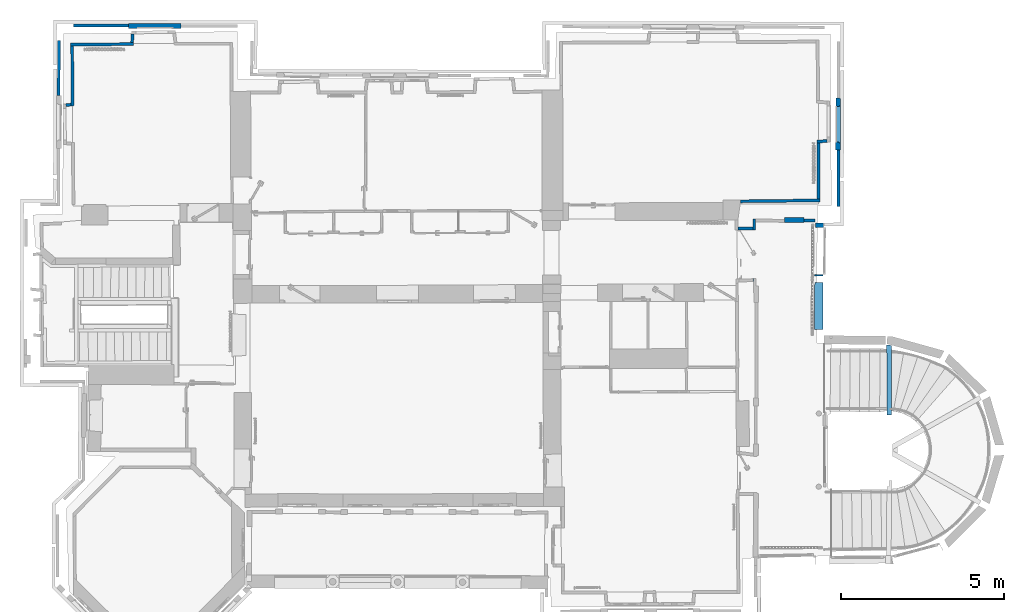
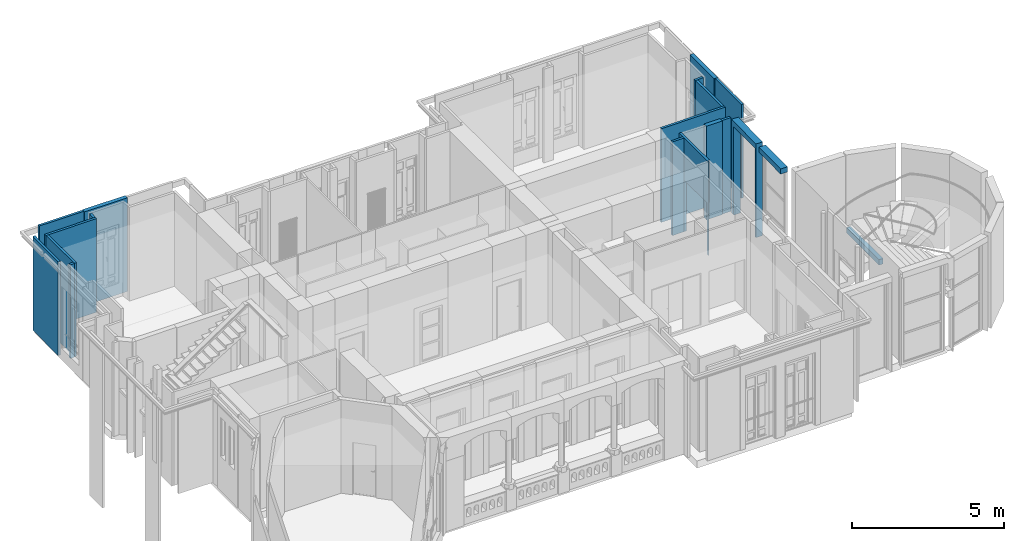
# One storey, part 14 of 66: 19 walls, 5 openings.
"""IFC2X3 building model written with IfcOpenShell, lengths in centimetres."""

import ifcopenshell
import ifcopenshell.guid

model = None  # the IFC model being written
_history = None  # IfcOwnerHistory: only IFC2X3 demands one
_inside = {}  # id of a spatial element -> (the spatial element, [elements in it])
_under = {}  # id of a project, library or spatial element -> (it, [spatial elements below it])
_declared = {}  # id of a project -> (the project, [libraries it declares])
_typed = {}  # id of a type object -> (the type object, [elements of that type])
_made_of = {}  # id of a material, layer set ... -> (it, [elements and type objects made of it])


def new_model(schema):
    """Start an empty IFC model of exactly this schema.

    Asked for "IFC4X3", IfcOpenShell would pick the latest addendum, in which some entities
    have other attributes; the version numbers below select the first issue.
    IFC2X3 requires an IfcOwnerHistory on every rooted entity: one is made here for all.
    """
    global model, _history
    if schema == "IFC4X3":
        model = ifcopenshell.file(schema_version=(4, 3, 0, 0))
    else:
        model = ifcopenshell.file(schema=schema)
    _inside.clear()
    _under.clear()
    _declared.clear()
    _typed.clear()
    _made_of.clear()
    _history = None
    if model.schema == "IFC2X3":
        org = make("IfcOrganization", Name="unknown")
        user = make(
            "IfcPersonAndOrganization",
            ThePerson=make("IfcPerson", FamilyName="unknown"),
            TheOrganization=org,
        )
        app = make(
            "IfcApplication",
            ApplicationDeveloper=org,
            Version="unknown",
            ApplicationFullName="unknown",
            ApplicationIdentifier="unknown",
        )
        _history = make(
            "IfcOwnerHistory",
            OwningUser=user,
            OwningApplication=app,
            ChangeAction="ADDED",
            CreationDate=0,
        )
    return model


def make(cls, **values):
    """One entity of the class cls with the attributes given. An attribute that is None is left unset."""
    return model.create_entity(
        cls, **{name: value for name, value in values.items() if value is not None}
    )


def entity(cls, *values):
    """Any entity or typed value of the class cls, its attributes in the order of the schema. None: left unset."""
    e = model.create_entity(cls)
    for i, value in enumerate(values):
        if value is not None:
            e[i] = value
    return e


def rooted(cls, **values):
    """An entity with a GlobalId (a new one), such as an element, a storey or a relation."""
    return make(cls, GlobalId=ifcopenshell.guid.new(), OwnerHistory=_history, **values)


def si_unit(unit_type, name, prefix=None):
    """IfcSIUnit, for example si_unit("LENGTHUNIT", "METRE", prefix="MILLI")."""
    return make("IfcSIUnit", UnitType=unit_type, Prefix=prefix, Name=name)


def converted_unit(unit_type, name, factor, base, dimensions=None, offset=None):
    """IfcConversionBasedUnit, such as the inch: factor (a typed value) times the base unit."""
    return make(
        "IfcConversionBasedUnit"
        if offset is None
        else "IfcConversionBasedUnitWithOffset",
        ConversionOffset=offset,
        Dimensions=None
        if dimensions is None
        else entity("IfcDimensionalExponents", *dimensions),
        UnitType=unit_type,
        Name=name,
        ConversionFactor=make(
            "IfcMeasureWithUnit", ValueComponent=factor, UnitComponent=base
        ),
    )


def assignment(units):
    """IfcUnitAssignment: the units of a project."""
    return None if units is None else make("IfcUnitAssignment", Units=units)


def point(xyz):
    """IfcCartesianPoint."""
    return None if xyz is None else make("IfcCartesianPoint", Coordinates=xyz)


def direction(xyz):
    """IfcDirection."""
    return None if xyz is None else make("IfcDirection", DirectionRatios=xyz)


def frame(location, z_axis=None, x_axis=None):
    """IfcAxis2Placement3D, a coordinate frame: its origin and axes. An axis left out is left unset."""
    return make(
        "IfcAxis2Placement3D",
        Location=point(location),
        Axis=direction(z_axis),
        RefDirection=direction(x_axis),
    )


def frame_2d(location, x_axis=None):
    """IfcAxis2Placement2D, a coordinate frame in the plane: its origin and x axis."""
    return make(
        "IfcAxis2Placement2D", Location=point(location), RefDirection=direction(x_axis)
    )


def origin():
    """The frame at (0, 0, 0) with its axes left unset."""
    return frame((0.0, 0.0, 0.0))


def origin_with_axes():
    """The frame at (0, 0, 0) with the z axis (0, 0, 1) and the x axis (1, 0, 0) written out."""
    return frame((0.0, 0.0, 0.0), z_axis=(0.0, 0.0, 1.0), x_axis=(1.0, 0.0, 0.0))


def origin_2d_with_axis():
    """The frame at (0, 0) in the plane with the x axis (1, 0) written out."""
    return frame_2d((0.0, 0.0), x_axis=(1.0, 0.0))


def place(relative_to, where):
    """IfcLocalPlacement: puts the frame where relative to a parent placement (None: the world)."""
    return make(
        "IfcLocalPlacement", PlacementRelTo=relative_to, RelativePlacement=where
    )


def context(
    kind, dimensions, precision=None, world=None, true_north=None, identifier=None
):
    """IfcGeometricRepresentationContext, for example the 3D "Model" context."""
    return make(
        "IfcGeometricRepresentationContext",
        ContextIdentifier=identifier,
        ContextType=kind,
        CoordinateSpaceDimension=dimensions,
        Precision=precision,
        WorldCoordinateSystem=world,
        TrueNorth=true_north,
    )


def subcontext(parent, identifier, kind, view, scale=None):
    """IfcGeometricRepresentationSubContext, for example "Body" below "Model"."""
    return make(
        "IfcGeometricRepresentationSubContext",
        ContextIdentifier=identifier,
        ContextType=kind,
        ParentContext=parent,
        TargetScale=scale,
        TargetView=view,
    )


def project(units=None, contexts=None):
    """IfcProject with its units and contexts."""
    return rooted(
        "IfcProject",
        Name="project",
        RepresentationContexts=contexts,
        UnitsInContext=assignment(units),
    )


def spatial(cls, under=None, at=None, **own):
    """A site, building, storey or space (cls), placed at a placement, below another one or the project."""
    s = rooted(cls, ObjectPlacement=at, **own)
    if under is not None:
        _under.setdefault(under.id(), (under, []))[1].append(s)
    return s


def polyline(points):
    """IfcPolyline through the points."""
    return make("IfcPolyline", Points=[point(p) for p in points])


def profile(cls, at=None, kind="AREA", **sizes):
    """A parametric profile (cls). Its sizes go by their IFC names, for example OverallWidth=200.0."""
    return make(cls, ProfileType=kind, Position=at, **sizes)


def rectangle(**sizes):
    """IfcRectangleProfileDef."""
    return profile("IfcRectangleProfileDef", **sizes)


def outline(outer, holes=None, kind="AREA"):
    """IfcArbitraryClosedProfileDef: a profile drawn as a closed curve; with holes, ...WithVoids."""
    if holes is None:
        return make("IfcArbitraryClosedProfileDef", ProfileType=kind, OuterCurve=outer)
    return make(
        "IfcArbitraryProfileDefWithVoids",
        ProfileType=kind,
        OuterCurve=outer,
        InnerCurves=holes,
    )


def extrude(swept, where, along, depth):
    """IfcExtrudedAreaSolid: the profile swept, set in the frame where, extruded along a direction by depth."""
    return make(
        "IfcExtrudedAreaSolid",
        SweptArea=swept,
        Position=where,
        ExtrudedDirection=direction(along),
        Depth=depth,
    )


def faces_of(points, faces, orient=None, outer=None):
    """IfcFace entities. A face is a list of loops; a loop is a list of indices into points, from 0.

    orient and outer hold one flag for each loop. By default every Orientation is true, the
    first loop of a face is its IfcFaceOuterBound and the others are IfcFaceBound.
    """
    made = []
    for i, loops in enumerate(faces):
        bounds = []
        for j, loop in enumerate(loops):
            is_outer = j == 0 if outer is None else outer[i][j]
            bounds.append(
                make(
                    "IfcFaceOuterBound" if is_outer else "IfcFaceBound",
                    Bound=make("IfcPolyLoop", Polygon=[points[k] for k in loop]),
                    Orientation=True if orient is None else orient[i][j],
                )
            )
        made.append(make("IfcFace", Bounds=bounds))
    return made


def faceted_brep(points, faces, orient=None, outer=None, voids=None):
    """IfcFacetedBrep: a solid bounded by flat faces; with voids (closed shells), ...WithVoids."""
    shared = [point(p) for p in points]
    hull = make("IfcClosedShell", CfsFaces=faces_of(shared, faces, orient, outer))
    if voids is None:
        return make("IfcFacetedBrep", Outer=hull)
    return make(
        "IfcFacetedBrepWithVoids",
        Outer=hull,
        Voids=[
            make(cls, CfsFaces=faces_of(shared, fs, o, b)) for cls, fs, o, b in voids
        ],
    )


def shape(context_of_items, identifier, shape_type, items):
    """IfcShapeRepresentation: the items that make up one representation, for example the "Body"."""
    return make(
        "IfcShapeRepresentation",
        ContextOfItems=context_of_items,
        RepresentationIdentifier=identifier,
        RepresentationType=shape_type,
        Items=items,
    )


def material(Name=None, Category=None):
    """IfcMaterial."""
    return make("IfcMaterial", Name=Name, Category=Category)


def layer(
    of_material, thickness, ventilated=None, Name=None, Category=None, Priority=None
):
    """IfcMaterialLayer: one layer of a wall or slab, of a material (None: an air gap)."""
    return make(
        "IfcMaterialLayer",
        Material=of_material,
        LayerThickness=thickness,
        IsVentilated=ventilated,
        Name=Name,
        Category=Category,
        Priority=Priority,
    )


def layer_set(layers, Name=None):
    """IfcMaterialLayerSet."""
    return make("IfcMaterialLayerSet", MaterialLayers=layers, LayerSetName=Name)


def layer_usage(for_layer_set, set_direction, sense, offset, extent=None):
    """IfcMaterialLayerSetUsage: how a layer set lies in its element."""
    return make(
        "IfcMaterialLayerSetUsage",
        ForLayerSet=for_layer_set,
        LayerSetDirection=set_direction,
        DirectionSense=sense,
        OffsetFromReferenceLine=offset,
        ReferenceExtent=extent,
    )


def made_of(thing, what):
    """Note that an element or type object is made of a material, layer set ...; save() writes the relation."""
    if what is not None:
        _made_of.setdefault(what.id(), (what, []))[1].append(thing)
    return thing


def type_object(cls, material=None, **own):
    """A type object (cls), such as IfcWallType, which elements share."""
    return made_of(rooted(cls, **own), material)


def element(
    cls,
    number,
    at=None,
    inside=None,
    cuts=None,
    type_object=None,
    material=None,
    context=None,
    identifier="Body",
    shape_type=None,
    held_by="IfcProductDefinitionShape",
    body=None,
    shapes=None,
    **own,
):
    """One element of the class cls, such as IfcWall. Its Tag is "e" and its number.

    at: its placement. inside: the storey or other place that contains it. cuts: it is an
    opening in that element (IfcRelVoidsElement). A single representation is given by context,
    identifier, shape_type and body (its items); several are given by shapes. held_by: the class
    of the entity that holds the representations. save() writes the other relations.
    """
    e = rooted(cls, Tag="e%d" % number, ObjectPlacement=at, **own)
    if body is not None:
        shapes = [shape(context, identifier, shape_type, body)]
    if shapes is not None:
        e.Representation = make(held_by, Representations=shapes)
    if inside is not None:
        _inside.setdefault(inside.id(), (inside, []))[1].append(e)
    if cuts is not None:
        rooted(
            "IfcRelVoidsElement", RelatingBuildingElement=cuts, RelatedOpeningElement=e
        )
    if type_object is not None:
        _typed.setdefault(type_object.id(), (type_object, []))[1].append(e)
    return made_of(e, material)


def aggregate(whole, parts):
    """IfcRelAggregates: a whole, such as a stair, and the parts it consists of."""
    return rooted("IfcRelAggregates", RelatingObject=whole, RelatedObjects=parts)


def save(model, path):
    """Write the relations noted so far, then the file.

    IfcRelAggregates (storeys below a building ...), IfcRelContainedInSpatialStructure (elements
    in a storey), IfcRelDefinesByType, IfcRelAssociatesMaterial and IfcRelDeclares: one each for
    every whole, place, type object, material and project.
    """
    for whole, parts in _under.values():
        aggregate(whole, parts)
    for where, things in _inside.values():
        rooted(
            "IfcRelContainedInSpatialStructure",
            RelatedElements=things,
            RelatingStructure=where,
        )
    for kind, things in _typed.values():
        rooted("IfcRelDefinesByType", RelatedObjects=things, RelatingType=kind)
    for what, things in _made_of.values():
        rooted("IfcRelAssociatesMaterial", RelatedObjects=things, RelatingMaterial=what)
    for by, libraries in _declared.values():
        rooted("IfcRelDeclares", RelatingContext=by, RelatedDefinitions=libraries)
    model.write(path)


model = new_model("IFC2X3")

# Units and contexts
model_context = context("Model", 3, precision=0.0001, world=origin(), true_north=direction((0.225632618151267, 0.974212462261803, 0.0)))
body_context = subcontext(model_context, "Body", "Model", "MODEL_VIEW")
footprint_context = subcontext(model_context, "FootPrint", "Model", "MODEL_VIEW")
profile_context = subcontext(model_context, "Profile", "Model", "MODEL_VIEW")
ifc_project = project(units=[si_unit("LENGTHUNIT", "METRE", prefix="CENTI"), si_unit("AREAUNIT", "SQUARE_METRE", prefix="CENTI"), si_unit("VOLUMEUNIT", "CUBIC_METRE", prefix="CENTI"), converted_unit("PLANEANGLEUNIT", "DEGREE", entity("IfcRatioMeasure", 0.0174532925), si_unit("PLANEANGLEUNIT", "RADIAN"), dimensions=[0, 0, 0, 0, 0, 0, 0])], contexts=[model_context])

# Site, building, storey
site_placement = place(None, origin_with_axes())
site = spatial("IfcSite", under=ifc_project, at=site_placement, Name="Default Site", CompositionType="ELEMENT")
building_placement = place(site_placement, origin_with_axes())
building = spatial("IfcBuilding", under=site, at=building_placement, Name="Default Building", CompositionType="ELEMENT")
storey_placement = place(building_placement, frame((0.0, 0.0, 477.795358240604), z_axis=(0.0, 0.0, 1.0), x_axis=(1.0, 0.0, 0.0)))
storey = spatial("IfcBuildingStorey", under=building, at=storey_placement, Name="Niveau 1", CompositionType="ELEMENT", Elevation=477.795358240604)

# Walls
ifc_material = material(Name="<aucun>")
ifc_layer_1 = layer(ifc_material, 9.0)
ifc_layer_set_1 = layer_set([ifc_layer_1], Name="default")
ifc_layer_usage_1 = layer_usage(ifc_layer_set_1, "AXIS2", "POSITIVE", -4.5)
wall_type_1 = type_object("IfcWallType", Name="default 90", PredefinedType="NOTDEFINED", material=ifc_layer_set_1)
wall_1_placement = place(storey_placement, frame((1078.23485366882, 400.330820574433, 0.0128503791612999), z_axis=(0.0, 0.0, 1.0), x_axis=(0.996519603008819, 0.0833587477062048, 0.0)))
element("IfcWallStandardCase", 1, at=wall_1_placement, inside=storey, type_object=wall_type_1, material=ifc_layer_usage_1, Name="Enveloppe 596929", context=body_context, shape_type="SweptSolid", body=[
    extrude(outline(polyline([(0.000276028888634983, 4.49999999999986), (-0.725545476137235, -4.49999999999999), (31.1006430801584, -4.4999999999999), (31.1006430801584, 4.49999999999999), (0.000276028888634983, 4.49999999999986)])), frame((0.0, 0.0, -1.77635683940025e-13), z_axis=(0.0, 0.0, 1.0), x_axis=(1.0, 0.0, 0.0)), (0.0, 0.0, 1.0), 376.102165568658),
])
ifc_layer_usage_2 = layer_usage(ifc_layer_set_1, "AXIS2", "POSITIVE", -4.5)
wall_2_placement = place(storey_placement, frame((1082.89843228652, 224.321940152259, 0.0128503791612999), z_axis=(0.0, 0.0, 1.0), x_axis=(-0.00298291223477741, 0.999995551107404, 0.0)))
element("IfcWallStandardCase", 2, at=wall_2_placement, inside=storey, type_object=wall_type_1, material=ifc_layer_usage_2, Name="Enveloppe 597024", context=body_context, shape_type="SweptSolid", body=[
    extrude(outline(polyline([(171.478247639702, 4.49999999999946), (2.22044604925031e-13, 4.49999999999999), (0.075231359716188, -4.49999999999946), (172.204069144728, -4.50000000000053), (171.478247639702, 4.49999999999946)])), frame((0.0, 0.0, -1.77635683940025e-13), z_axis=(0.0, 0.0, 1.0), x_axis=(1.0, 0.0, 0.0)), (0.0, 0.0, 1.0), 376.102165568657),
])
ifc_layer_usage_3 = layer_usage(ifc_layer_set_1, "AXIS2", "POSITIVE", -4.5)
wall_3_placement = place(storey_placement, frame((835.679520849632, 133.532084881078, 0.0128503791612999), z_axis=(0.0, 0.0, 1.0), x_axis=(0.999979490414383, 0.00640458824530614, 0.0)))
element("IfcWallStandardCase", 3, at=wall_3_placement, inside=storey, type_object=wall_type_1, material=ifc_layer_usage_3, Name="Enveloppe 598542", context=body_context, shape_type="SweptSolid", body=[
    extrude(outline(polyline([(-0.11826923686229, 4.50000000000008), (3.5527136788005e-13, -4.49999999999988), (45.3135443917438, -4.49999396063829), (45.3577680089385, 4.49972279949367), (-0.11826923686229, 4.50000000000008)])), frame((0.0, 0.0, -1.77635683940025e-13), z_axis=(0.0, 0.0, 1.0), x_axis=(1.0, 0.0, 0.0)), (0.0, 0.0, 1.0), 376.102165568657),
])
ifc_layer_usage_4 = layer_usage(ifc_layer_set_1, "AXIS2", "POSITIVE", -4.5)
wall_4_placement = place(storey_placement, frame((-1209.92146785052, 511.078585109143, 0.0128503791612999), z_axis=(0.0, 0.0, 1.0), x_axis=(-0.00919165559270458, 0.999957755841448, 0.0)))
element("IfcWallStandardCase", 4, at=wall_4_placement, inside=storey, type_object=wall_type_1, material=ifc_layer_usage_4, Name="Enveloppe 601335", context=body_context, shape_type="SweptSolid", body=[
    extrude(outline(polyline([(183.253227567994, 4.49999999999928), (-1.02426270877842, 4.50000000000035), (0.0217158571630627, -4.49999999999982), (183.250055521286, -4.50000000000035), (183.253227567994, 4.49999999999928)])), frame((0.0, 0.0, -8.88178419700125e-14), z_axis=(0.0, 0.0, 1.0), x_axis=(1.0, 0.0, 0.0)), (0.0, 0.0, 1.0), 376.102165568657),
])
ifc_layer_usage_5 = layer_usage(ifc_layer_set_1, "AXIS2", "POSITIVE", -4.5)
wall_5_placement = place(storey_placement, frame((-1231.95354123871, 512.346040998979, 0.0128503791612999), z_axis=(0.0, 0.0, 1.0), x_axis=(0.99221105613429, 0.124568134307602, 0.0)))
element("IfcWallStandardCase", 5, at=wall_5_placement, inside=storey, type_object=wall_type_1, material=ifc_layer_usage_5, Name="Enveloppe 601371", context=body_context, shape_type="SweptSolid", body=[
    extrude(outline(polyline([(1.00673087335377, 4.4999999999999), (1.00673087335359, -4.50000000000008), (17.1144248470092, -4.50000000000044), (18.1604034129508, 4.49999999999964), (1.00673087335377, 4.4999999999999)])), frame((0.0, 0.0, -1.77635683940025e-13), z_axis=(0.0, 0.0, 1.0), x_axis=(1.0, 0.0, 0.0)), (0.0, 0.0, 1.0), 376.102165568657),
])
ifc_layer_usage_6 = layer_usage(ifc_layer_set_1, "AXIS2", "POSITIVE", -4.5)
wall_6_placement = place(storey_placement, frame((-1207.14580583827, 698.862086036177, 0.0128503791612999), z_axis=(0.0, 0.0, 1.0), x_axis=(0.999960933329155, 0.00883922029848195, 0.0)))
element("IfcWallStandardCase", 6, at=wall_6_placement, inside=storey, type_object=wall_type_1, material=ifc_layer_usage_6, Name="Enveloppe 601097", context=body_context, shape_type="SweptSolid", body=[
    extrude(outline(polyline([(-9.00317260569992, 4.50000000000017), (-8.99999944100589, -4.50317204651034), (183.78498179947, -4.50000000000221), (184.44707866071, 4.49999999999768), (-9.00317260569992, 4.50000000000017)])), frame((0.0, 0.0, -4.44089209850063e-13), z_axis=(0.0, 0.0, 1.0), x_axis=(1.0, 0.0, 0.0)), (0.0, 0.0, 1.0), 376.102165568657),
])
ifc_layer_usage_7 = layer_usage(ifc_layer_set_1, "AXIS2", "POSITIVE", -4.5)
wall_7_placement = place(storey_placement, frame((-1027.81910076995, 696.273260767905, 0.0128503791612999), z_axis=(0.0, 0.0, 1.0), x_axis=(0.0645497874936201, 0.997914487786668, 0.0)))
element("IfcWallStandardCase", 7, at=wall_7_placement, inside=storey, type_object=wall_type_1, material=ifc_layer_usage_7, Name="Enveloppe 601131", context=body_context, shape_type="SweptSolid", body=[
    extrude(outline(polyline([(8.36622368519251, 4.50000000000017), (9.02832054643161, -4.49999999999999), (36.1012493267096, -4.49999999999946), (35.4392659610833, 4.50000000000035), (8.36622368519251, 4.50000000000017)])), origin_with_axes(), (0.0, 0.0, 1.0), 376.102165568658),
])
ifc_layer_usage_8 = layer_usage(ifc_layer_set_1, "AXIS2", "POSITIVE", -4.5)
wall_8_placement = place(storey_placement, frame((842.70520847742, 217.134936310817, 0.0128503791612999), z_axis=(0.0, 0.0, 1.0), x_axis=(0.999935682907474, 0.0113415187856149, 0.0)))
element("IfcWallStandardCase", 8, at=wall_8_placement, inside=storey, type_object=wall_type_1, material=ifc_layer_usage_8, Name="Enveloppe 92717", context=body_context, shape_type="SweptSolid", body=[
    extrude(outline(polyline([(0.0, 4.49999999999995), (0.0, -4.50000000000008), (244.684527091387, -4.50000000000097), (244.759758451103, 4.49999999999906), (0.0, 4.49999999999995)])), frame((0.0, 0.0, -1.77635683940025e-13), z_axis=(0.0, 0.0, 1.0), x_axis=(1.0, 0.0, 0.0)), (0.0, 0.0, 1.0), 376.102165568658),
])
ifc_layer_2 = layer(ifc_material, 15.0)
ifc_layer_set_2 = layer_set([ifc_layer_2], Name="default")
ifc_layer_usage_9 = layer_usage(ifc_layer_set_2, "AXIS2", "POSITIVE", -7.5)
wall_type_2 = type_object("IfcWallType", Name="default 150", PredefinedType="NOTDEFINED", material=ifc_layer_set_2)
wall_9_placement = place(storey_placement, frame((1300.57115265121, -430.188988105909, 66.0), z_axis=(0.0, 0.0, 1.0), x_axis=(-0.00165307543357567, 0.999998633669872, 0.0)))
element("IfcWallStandardCase", 9, at=wall_9_placement, inside=storey, type_object=wall_type_2, material=ifc_layer_usage_9, Name="Enveloppe 1679334", context=body_context, shape_type="SweptSolid", body=[
    extrude(outline(polyline([(205.558656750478, 7.49999999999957), (-9.01072472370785, 7.49999999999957), (-9.00643881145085, 1.49999999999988), (-9.10643853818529, 1.5001653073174), (-9.1064385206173, -7.49982406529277), (204.360645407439, -7.50000000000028), (205.558656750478, 7.49999999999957)])), frame((0.0, 0.0, -4.44089209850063e-13), z_axis=(0.0, 0.0, 1.0), x_axis=(1.0, 0.0, 0.0)), (0.0, 0.0, 1.0), 22.0),
])

# Wall, opening
ifc_layer_3 = layer(ifc_material, 25.5)
ifc_layer_set_3 = layer_set([ifc_layer_3], Name="default")
ifc_layer_usage_10 = layer_usage(ifc_layer_set_3, "AXIS2", "POSITIVE", -12.75)
wall_type_3 = type_object("IfcWallType", Name="default 255", PredefinedType="NOTDEFINED", material=ifc_layer_set_3)
wall_10_placement = place(storey_placement, frame((1083.47369991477, -176.791939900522, -4.9999999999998), z_axis=(0.0, 0.0, 1.0), x_axis=(0.00502234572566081, 0.999987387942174, 0.0)))
wall_10 = element("IfcWallStandardCase", 10, at=wall_10_placement, inside=storey, type_object=wall_type_3, material=ifc_layer_usage_10, Name="Enveloppe 728247", context=body_context, shape_type="SweptSolid", body=[
    extrude(rectangle(XDim=144.13896955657, YDim=25.5000000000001, at=origin_2d_with_axis()), frame((72.1624117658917, -1.77635683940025e-13, -8.88178419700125e-14), z_axis=(0.0, 0.0, 1.0), x_axis=(1.0, -1.92641042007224e-15, 0.0)), (0.0, 0.0, 1.0), 376.115015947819),
])
opening_1_placement = place(wall_10_placement, frame((-2.8421709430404e-14, 0.0, 8.88455975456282e-14), z_axis=(0.0, 0.0, 1.0), x_axis=(1.0, -1.8474805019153e-16, 0.0)))
cartesian_point_1 = entity("IfcCartesianPoint", [2.22044604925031e-14, 1.77635683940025e-13, 355.0])
cartesian_point_2 = entity("IfcCartesianPoint", [144.324823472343, 12.7500000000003])
element("IfcOpeningElement", 11, at=opening_1_placement, cuts=wall_10, Name="4294966486_11", ObjectType="Opening", shapes=[
    shape(body_context, "Body", "SweptSolid", [extrude(outline(polyline([(2.22044604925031e-14, 355.0), (0.0, -1.77635683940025e-13), (144.324823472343, -1.77635683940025e-13), (144.324823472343, 355.0), (2.22044604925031e-14, 355.0)])), frame((0.0, 22.75, 0.0), z_axis=(0.0, -1.0, 0.0), x_axis=(1.0, 0.0, 0.0)), (0.0, 0.0, 1.0), 45.5)]),
    shape(profile_context, "Profile", "GeometricCurveSet", [entity("IfcGeometricCurveSet", [entity("IfcPolyline", [cartesian_point_1, entity("IfcCartesianPoint", [0.0, 1.77635683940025e-13, -1.77635683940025e-13]), entity("IfcCartesianPoint", [144.324823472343, 3.5527136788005e-13, -1.77635683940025e-13]), entity("IfcCartesianPoint", [144.324823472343, 3.5527136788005e-13, 355.0]), cartesian_point_1])])]),
    shape(footprint_context, "FootPrint", "GeometricCurveSet", [entity("IfcGeometricCurveSet", [entity("IfcPolyline", [cartesian_point_2, entity("IfcCartesianPoint", [0.0, 12.7500000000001]), entity("IfcCartesianPoint", [0.0, -12.7499999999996]), entity("IfcCartesianPoint", [144.324823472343, -12.7499999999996]), cartesian_point_2])])]),
])

ifc_layer_usage_11 = layer_usage(ifc_layer_set_3, "AXIS2", "POSITIVE", -12.75)
wall_11_placement = place(storey_placement, frame((1084.07586503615, -12.2693195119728, -4.9999999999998), z_axis=(0.0, 0.0, 1.0), x_axis=(0.012024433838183, 0.999927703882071, 0.0)))
wall_11 = element("IfcWallStandardCase", 12, at=wall_11_placement, inside=storey, type_object=wall_type_3, material=ifc_layer_usage_11, Name="Enveloppe 728252", context=body_context, shape_type="SweptSolid", body=[
    extrude(outline(polyline([(0.201177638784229, 12.7500000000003), (0.201177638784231, -5.32907051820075e-13), (0.410992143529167, -12.4707481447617), (0.201767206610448, -0.144572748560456), (0.201177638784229, -12.7499999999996), (163.113984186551, -12.7499999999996), (163.113984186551, 12.7500000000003), (0.201177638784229, 12.7500000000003)])), frame((0.0, 0.0, 1.77635683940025e-13), z_axis=(0.0, 0.0, 1.0), x_axis=(1.0, 0.0, 0.0)), (0.0, 0.0, 1.0), 376.11501594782),
])
opening_2_placement = place(wall_11_placement, frame((4.10540719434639, 2.27373675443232e-13, -1.92276749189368e-05), z_axis=(0.0, 0.0, 1.0), x_axis=(1.0, 6.93889390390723e-17, 0.0)))
cartesian_point_3 = entity("IfcCartesianPoint", [2.22044604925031e-14, 0.0, 355.0])
cartesian_point_4 = entity("IfcCartesianPoint", [144.324823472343, 12.7500000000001])
element("IfcOpeningElement", 13, at=opening_2_placement, cuts=wall_11, Name="4294966487_11", ObjectType="Opening", shapes=[
    shape(body_context, "Body", "SweptSolid", [extrude(outline(polyline([(2.22044604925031e-14, 355.0), (1.38777878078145e-15, 0.0), (144.324823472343, 0.0), (144.324823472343, 355.0), (2.22044604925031e-14, 355.0)])), frame((0.0, 22.75, 0.0), z_axis=(0.0, -1.0, 0.0), x_axis=(1.0, 0.0, 0.0)), (0.0, 0.0, 1.0), 45.5)]),
    shape(profile_context, "Profile", "GeometricCurveSet", [entity("IfcGeometricCurveSet", [entity("IfcPolyline", [cartesian_point_3, entity("IfcCartesianPoint", [0.0, 0.0, 0.0]), entity("IfcCartesianPoint", [144.324823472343, 1.77635683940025e-13, 0.0]), entity("IfcCartesianPoint", [144.324823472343, 1.77635683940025e-13, 355.0]), cartesian_point_3])])]),
    shape(footprint_context, "FootPrint", "GeometricCurveSet", [entity("IfcGeometricCurveSet", [entity("IfcPolyline", [cartesian_point_4, entity("IfcCartesianPoint", [1.38777878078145e-15, 12.7500000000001]), entity("IfcCartesianPoint", [-1.38777878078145e-15, -12.75]), entity("IfcCartesianPoint", [144.324823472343, -12.7499999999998]), cartesian_point_4])])]),
])

# Walls
ifc_layer_usage_12 = layer_usage(ifc_layer_set_1, "AXIS2", "POSITIVE", -4.5)
wall_type_4 = type_object("IfcWallType", Name="default 90", PredefinedType="NOTDEFINED", material=ifc_layer_set_1)
wall_12_placement = place(storey_placement, frame((1100.72936900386, 158.073735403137, 0.0128503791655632), z_axis=(0.0, 0.0, 1.0), x_axis=(-0.999965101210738, 0.0083544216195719, 0.0)))
element("IfcWallStandardCase", 14, at=wall_12_placement, inside=storey, type_object=wall_type_4, material=ifc_layer_usage_12, Name="Enveloppe 442677", context=body_context, shape_type="SweptSolid", body=[
    extrude(rectangle(XDim=9.00000074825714, YDim=34.1391345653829, at=origin_2d_with_axis()), frame((45.1187831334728, -5.32907051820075e-13, 1.77635683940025e-13), z_axis=(0.0, 0.0, 1.0), x_axis=(0.000407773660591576, -0.999999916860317, 0.0)), (0.0, 0.0, 1.0), 376.102165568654),
])
ifc_layer_usage_13 = layer_usage(ifc_layer_set_1, "AXIS2", "POSITIVE", -4.5)
wall_13_placement = place(storey_placement, frame((-1038.00440206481, 756.988328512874, 0.0128503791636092), z_axis=(0.0, 0.0, 1.0), x_axis=(-0.999997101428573, 0.00240772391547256, 0.0)))
element("IfcWallStandardCase", 15, at=wall_13_placement, inside=storey, type_object=wall_type_4, material=ifc_layer_usage_13, Name="Enveloppe 422563", context=body_context, shape_type="SweptSolid", body=[
    extrude(outline(polyline([(169.611305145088, 4.49999999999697), (-0.0142199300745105, 4.49999999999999), (-1.4210854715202e-12, -4.50000000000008), (169.611305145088, -4.50000000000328), (169.611305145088, 4.49999999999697)])), frame((0.0, 0.0, -2.8421709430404e-12), z_axis=(0.0, 0.0, 1.0), x_axis=(1.0, 0.0, 0.0)), (0.0, 0.0, 1.0), 376.102165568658),
])
ifc_layer_usage_14 = layer_usage(ifc_layer_set_1, "AXIS2", "POSITIVE", -4.5)
wall_14_placement = place(storey_placement, frame((-1253.38819463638, 543.037450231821, 0.0128503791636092), z_axis=(0.0, 0.0, 1.0), x_axis=(0.00928951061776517, 0.999956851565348, 0.0)))
element("IfcWallStandardCase", 16, at=wall_14_placement, inside=storey, type_object=wall_type_4, material=ifc_layer_usage_14, Name="Enveloppe 422586", context=body_context, shape_type="SweptSolid", body=[
    extrude(outline(polyline([(-0.0348670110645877, 4.49999999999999), (0.0, -4.50000000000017), (169.218388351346, -4.50000000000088), (169.218388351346, 4.49999999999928), (-0.0348670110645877, 4.49999999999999)])), origin_with_axes(), (0.0, 0.0, 1.0), 376.102165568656),
])

# Wall, opening
ifc_layer_usage_15 = layer_usage(ifc_layer_set_1, "AXIS2", "POSITIVE", -4.5)
wall_15_placement = place(storey_placement, frame((885.798416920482, -43.9836973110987, 0.0128503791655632), z_axis=(0.0, 0.0, 1.0), x_axis=(-0.00159550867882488, 0.999998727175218, 0.0)))
wall_15 = element("IfcWallStandardCase", 17, at=wall_15_placement, inside=storey, type_object=wall_type_4, material=ifc_layer_usage_15, Name="Enveloppe 424653", context=body_context, shape_type="SweptSolid", body=[
    extrude(outline(polyline([(182.313391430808, 4.54328193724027), (182.313322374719, 4.50000044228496), (14.1185963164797, 4.50000000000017), (14.1540046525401, 2.09690729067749), (23.1195732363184, 2.13619787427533), (23.1195732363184, -4.49999999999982), (206.549652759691, -4.49999949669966), (206.663913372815, 4.22528376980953), (182.313391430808, 4.54328193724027)])), frame((0.0, 0.0, -1.77635683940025e-13), z_axis=(0.0, 0.0, 1.0), x_axis=(1.0, 0.0, 0.0)), (0.0, 0.0, 1.0), 376.102165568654),
])
opening_3_placement = place(wall_15_placement, frame((23.1195732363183, 1.13686837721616e-13, -1.77635683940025e-13), z_axis=(0.0, 0.0, 1.0), x_axis=(-1.0, 5.10659223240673e-16, 0.0)))
cartesian_point_5 = entity("IfcCartesianPoint", [-1.11022302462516e-14, 0.0, 206.315303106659])
cartesian_point_6 = entity("IfcCartesianPoint", [-150.193922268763, -4.49999999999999])
element("IfcOpeningElement", 18, at=opening_3_placement, cuts=wall_15, Name="Baie 442676", ObjectType="Opening", shapes=[
    shape(body_context, "Body", "SweptSolid", [extrude(outline(polyline([(1.11022302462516e-14, 206.315303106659), (-2.77555756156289e-15, 0.0), (150.193922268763, 0.0), (150.193922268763, 206.315303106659), (1.11022302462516e-14, 206.315303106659)])), frame((0.0, -14.5, 0.0), z_axis=(0.0, 1.0, 0.0), x_axis=(-1.0, 0.0, 0.0)), (0.0, 0.0, 1.0), 29.0)]),
    shape(profile_context, "Profile", "GeometricCurveSet", [entity("IfcGeometricCurveSet", [entity("IfcPolyline", [cartesian_point_5, entity("IfcCartesianPoint", [0.0, 0.0, 0.0]), entity("IfcCartesianPoint", [-150.193922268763, 1.77635683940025e-13, 0.0]), entity("IfcCartesianPoint", [-150.193922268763, 1.77635683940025e-13, 206.315303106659]), cartesian_point_5])])]),
    shape(footprint_context, "FootPrint", "GeometricCurveSet", [entity("IfcGeometricCurveSet", [entity("IfcPolyline", [cartesian_point_6, entity("IfcCartesianPoint", [2.77555756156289e-15, -4.49999999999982]), entity("IfcCartesianPoint", [-2.77555756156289e-15, 4.50000000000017]), entity("IfcCartesianPoint", [-150.193922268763, 4.50000000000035]), cartesian_point_6])])]),
])

# Wall
ifc_layer_usage_16 = layer_usage(ifc_layer_set_1, "AXIS2", "POSITIVE", -4.5)
wall_16_placement = place(storey_placement, frame((1143.79783582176, 201.277321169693, 0.0128503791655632), z_axis=(0.0, 0.0, 1.0), x_axis=(0.00506195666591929, 0.999987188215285, 0.0)))
element("IfcWallStandardCase", 19, at=wall_16_placement, inside=storey, type_object=wall_type_4, material=ifc_layer_usage_16, Name="Enveloppe 424715", context=body_context, shape_type="SweptSolid", body=[
    extrude(outline(polyline([(0.153952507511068, 4.49999999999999), (0.153952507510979, -4.50000000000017), (173.300046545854, -4.49999999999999), (173.284611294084, 4.50000000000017), (0.153952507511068, 4.49999999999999)])), frame((0.0, 0.0, -5.32907051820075e-13), z_axis=(0.0, 0.0, 1.0), x_axis=(1.0, 0.0, 0.0)), (0.0, 0.0, 1.0), 376.102165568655),
])

# Wall, opening
ifc_layer_usage_17 = layer_usage(ifc_layer_set_2, "AXIS2", "POSITIVE", -7.5)
wall_type_5 = type_object("IfcWallType", Name="default 150", PredefinedType="NOTDEFINED", material=ifc_layer_set_2)
wall_17_placement = place(storey_placement, frame((-876.318161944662, 755.892722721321, 0.0128503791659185), z_axis=(0.0, 0.0, 1.0), x_axis=(-0.999999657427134, 0.000827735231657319, 0.0)))
wall_17 = element("IfcWallStandardCase", 20, at=wall_17_placement, inside=storey, type_object=wall_type_5, material=ifc_layer_usage_17, Name="Enveloppe 426821", context=body_context, shape_type="SweptSolid", body=[
    extrude(outline(polyline([(161.679981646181, 7.50000000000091), (143.606354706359, 7.50915940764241), (0.0, 7.50000000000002), (0.0, -7.49999999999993), (161.679981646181, -7.49999999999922), (161.679981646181, 7.50000000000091)])), frame((0.0, 0.0, 1.77635683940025e-13), z_axis=(0.0, 0.0, 1.0), x_axis=(1.0, 0.0, 0.0)), (0.0, 0.0, 1.0), 376.102165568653),
])
opening_4_placement = place(wall_17_placement, frame((21.8602968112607, 0.0, 46.6053571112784), z_axis=(0.0, 0.0, 1.0), x_axis=(-1.0, -4.97128380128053e-15, 0.0)))
cartesian_point_7 = entity("IfcCartesianPoint", [0.0, -8.88178419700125e-14, 246.979707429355])
cartesian_point_8 = entity("IfcCartesianPoint", [-116.087071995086, -7.50000000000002])
element("IfcOpeningElement", 21, at=opening_4_placement, cuts=wall_17, Name="Baie 427050", ObjectType="Opening", shapes=[
    shape(body_context, "Body", "Brep", [faceted_brep([(-3.00003519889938, -27.5000141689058, 246.979685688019), (-113.087086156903, -27.5000141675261, 246.979685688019), (-113.087086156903, -27.5000141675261, 1.99317933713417e-05), (-3.00003519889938, -27.5000141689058, 1.99317933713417e-05), (-6.7442744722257e-07, 27.4999797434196, 1.99317933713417e-05), (-116.087095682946, 27.4999797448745, 1.99317933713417e-05), (-116.087095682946, 27.4999797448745, 246.979685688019), (-6.7442744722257e-07, 27.4999797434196, 246.979685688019), (-3.00003519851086, 3.49999072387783, 1.99317933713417e-05), (-3.00003519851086, 3.49999072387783, 246.979685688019), (-3.00004115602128, 3.49999072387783, 246.979685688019), (-3.00004115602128, 3.49999072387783, 1.99317933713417e-05), (2.8533201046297e-05, 3.49999072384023, 1.99317933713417e-05), (2.8533201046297e-05, 3.49999072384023, 246.979685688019), (2.85332010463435e-05, 3.49999443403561, 246.979685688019), (2.85332010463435e-05, 3.49999443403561, 1.99317933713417e-05), (2.85335018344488e-05, 27.4999797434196, 1.99317933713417e-05), (2.85335018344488e-05, 27.4999797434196, 246.979685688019), (-113.087086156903, -27.5000135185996, 1.99317933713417e-05), (-113.087092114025, 3.49999137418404, 1.99317933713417e-05), (-116.087066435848, 3.49998774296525, 1.99317933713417e-05), (-116.087095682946, 27.5000207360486, 1.99317933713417e-05), (-113.087086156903, -27.5000135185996, 246.979685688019), (-113.087086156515, 3.49999137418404, 246.979685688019), (-113.087086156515, 3.49999137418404, 1.99317933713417e-05), (-113.087092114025, 3.49999137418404, 246.979685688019), (-116.087066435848, 3.49999137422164, 246.979685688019), (-116.087066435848, 3.49999137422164, 1.99317933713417e-05), (-116.087066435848, 3.49998774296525, 246.979685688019), (-116.087066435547, 27.5000207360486, 246.979685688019), (-116.087066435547, 27.5000207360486, 1.99317933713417e-05), (-116.087095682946, 27.5000207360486, 246.979685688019)], [[[0, 1, 2, 3]], [[4, 5, 6, 7]], [[0, 3, 8, 9]], [[10, 11, 12, 13]], [[14, 15, 16, 17]], [[3, 18, 19, 20, 21, 4, 15, 11]], [[18, 22, 23, 24]], [[19, 25, 26, 27]], [[20, 28, 29, 30]], [[10, 14, 7, 31, 28, 25, 22, 0]]])]),
    shape(profile_context, "Profile", "GeometricCurveSet", [entity("IfcGeometricCurveSet", [entity("IfcPolyline", [cartesian_point_7, entity("IfcCartesianPoint", [0.0, -8.88178419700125e-14, 0.0]), entity("IfcCartesianPoint", [-116.087071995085, -8.88178419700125e-14, 0.0]), entity("IfcCartesianPoint", [-116.087071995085, -8.88178419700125e-14, 246.979707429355]), cartesian_point_7])])]),
    shape(footprint_context, "FootPrint", "GeometricCurveSet", [entity("IfcGeometricCurveSet", [entity("IfcPolyline", [cartesian_point_8, entity("IfcCartesianPoint", [-1.77635683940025e-13, -7.50000000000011]), entity("IfcCartesianPoint", [0.0, 7.49999999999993]), entity("IfcCartesianPoint", [-116.087071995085, 7.49999999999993]), cartesian_point_8])])]),
])

# Wall
ifc_layer_usage_18 = layer_usage(ifc_layer_set_2, "AXIS2", "POSITIVE", -7.5)
wall_18_placement = place(storey_placement, frame((978.189131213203, 159.145426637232, 0.0128503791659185), z_axis=(0.0, 0.0, 1.0), x_axis=(0.999997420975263, 0.00227113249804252, 0.0)))
element("IfcWallStandardCase", 22, at=wall_18_placement, inside=storey, type_object=wall_type_5, material=ifc_layer_usage_18, Name="Enveloppe 426428", context=body_context, shape_type="SweptSolid", body=[
    extrude(outline(polyline([(-0.123602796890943, -6.58262901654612), (3.5527136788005e-13, -6.58432669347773), (1.77635683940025e-13, -7.5), (60.3023030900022, -7.50000000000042), (60.3023030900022, 1.49999999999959), (60.3066683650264, -5.18897963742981), (60.4022974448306, 3.81051229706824), (60.3023011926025, 3.81073940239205), (60.3023030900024, 7.49999999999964), (3.5527136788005e-13, 7.50000000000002), (0.0, 2.41652218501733), (-0.123602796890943, -6.58262901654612)])), frame((0.0, 0.0, -1.77635683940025e-13), z_axis=(0.0, 0.0, 1.0), x_axis=(1.0, 0.0, 0.0)), (0.0, 0.0, 1.0), 376.102165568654),
])

# Wall, opening
ifc_layer_usage_19 = layer_usage(ifc_layer_set_2, "AXIS2", "POSITIVE", -7.5)
wall_19_placement = place(storey_placement, frame((1143.0897492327, 374.572735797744, 0.0128503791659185), z_axis=(0.0, 0.0, 1.0), x_axis=(0.00334694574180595, 0.999994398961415, 0.0)))
wall_19 = element("IfcWallStandardCase", 23, at=wall_19_placement, inside=storey, type_object=wall_type_5, material=ifc_layer_usage_19, Name="Enveloppe 426493", context=body_context, shape_type="SweptSolid", body=[
    extrude(rectangle(XDim=159.425914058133, YDim=15.0000000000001, at=origin_2d_with_axis()), frame((79.7129570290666, 3.5527136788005e-13, 0.0), z_axis=(0.0, 0.0, 1.0), x_axis=(1.0, -4.11129463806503e-16, 0.0)), (0.0, 0.0, 1.0), 376.102165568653),
])
opening_5_placement = place(wall_19_placement, frame((21.694043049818, 0.0, 50.4088737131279), z_axis=(0.0, 0.0, 1.0), x_axis=(-1.0, -7.04297731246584e-16, 0.0)))
cartesian_point_9 = entity("IfcCartesianPoint", [0.0, -1.77635683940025e-13, 243.0])
cartesian_point_10 = entity("IfcCartesianPoint", [-115.889180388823, -7.50000000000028])
element("IfcOpeningElement", 24, at=opening_5_placement, cuts=wall_19, Name="Baie 426927", ObjectType="Opening", shapes=[
    shape(body_context, "Body", "Brep", [faceted_brep([(-2.9999964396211, -27.4999645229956, 242.999977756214), (-112.889189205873, -27.4999645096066, 242.999977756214), (-112.889189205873, -27.4999645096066, -5.07764879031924e-06), (-2.9999964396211, -27.4999645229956, -5.07764879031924e-06), (-5.27956851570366e-06, 27.5000083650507, -5.07764879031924e-06), (-115.88920222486, 27.5000083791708, -5.07764879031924e-06), (-115.88920222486, 27.5000083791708, 242.999977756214), (-5.27956851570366e-06, 27.5000083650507, 242.999977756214), (-2.99999643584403, 3.49996498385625, -5.07764879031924e-06), (-2.99999643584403, 3.49996498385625, 242.999977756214), (-2.9999917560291, 3.49996498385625, 242.999977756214), (-2.9999917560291, 3.49996498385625, -5.07764879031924e-06), (-1.7469662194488e-06, 3.49996498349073, -5.07764879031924e-06), (-1.7469662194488e-06, 3.49996498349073, 242.999977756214), (-1.7469662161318e-06, 3.49999220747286, 242.999977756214), (-1.74696617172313e-06, 3.49999220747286, -5.07764879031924e-06), (-1.74404198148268e-06, 27.5000083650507, -5.07764879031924e-06), (-1.74404202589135e-06, 27.5000083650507, 242.999977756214), (-112.889189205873, -27.5000208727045, -5.07764879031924e-06), (-112.889184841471, 3.5000040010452, -5.07764879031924e-06), (-115.889174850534, 3.49997677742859, -5.07764879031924e-06), (-115.88920222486, 27.499992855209, -5.07764879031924e-06), (-1.7469662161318e-06, 3.49999220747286, -5.07764879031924e-06), (-112.889189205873, -27.5000208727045, 242.999977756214), (-112.889189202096, 3.5000040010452, 242.999977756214), (-112.889189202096, 3.5000040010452, -5.07764879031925e-06), (-112.889184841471, 3.5000040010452, 242.999977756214), (-115.889174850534, 3.50000400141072, 242.999977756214), (-115.889174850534, 3.50000400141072, -5.07764879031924e-06), (-115.889174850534, 3.49997677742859, 242.999977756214), (-115.88917484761, 27.499992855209, 242.999977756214), (-115.88917484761, 27.499992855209, -5.07764879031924e-06), (-115.88920222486, 27.499992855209, 242.999977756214)], [[[0, 1, 2, 3]], [[4, 5, 6, 7]], [[0, 3, 8, 9]], [[10, 11, 12, 13]], [[14, 15, 16, 17]], [[3, 18, 19, 20, 21, 4, 22, 11]], [[18, 23, 24, 25]], [[19, 26, 27, 28]], [[20, 29, 30, 31]], [[10, 14, 7, 32, 29, 26, 23, 0]]])]),
    shape(profile_context, "Profile", "GeometricCurveSet", [entity("IfcGeometricCurveSet", [entity("IfcPolyline", [cartesian_point_9, entity("IfcCartesianPoint", [0.0, -1.77635683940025e-13, 0.0]), entity("IfcCartesianPoint", [-115.889180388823, -3.5527136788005e-13, 0.0]), entity("IfcCartesianPoint", [-115.889180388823, -3.5527136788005e-13, 243.0]), cartesian_point_9])])]),
    shape(footprint_context, "FootPrint", "GeometricCurveSet", [entity("IfcGeometricCurveSet", [entity("IfcPolyline", [cartesian_point_10, entity("IfcCartesianPoint", [0.0, -7.50000000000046]), entity("IfcCartesianPoint", [0.0, 7.49999999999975]), entity("IfcCartesianPoint", [-115.889180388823, 7.49999999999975]), cartesian_point_10])])]),
])

save(model, "model.ifc")
